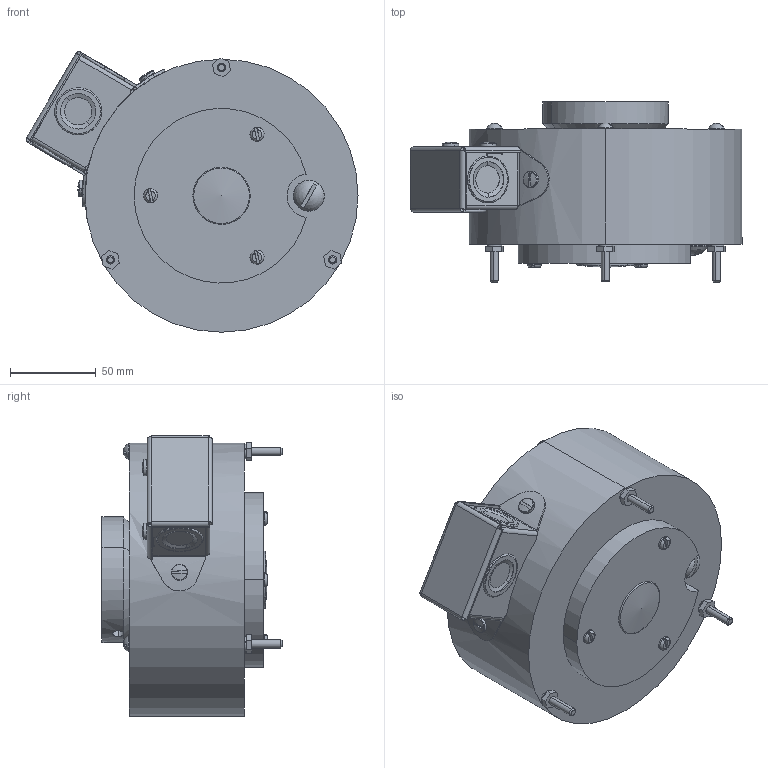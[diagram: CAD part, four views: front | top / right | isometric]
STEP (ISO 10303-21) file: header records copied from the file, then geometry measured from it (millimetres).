
FILE_DESCRIPTION (( 'STEP AP214' ), '1' );
FILE_NAME ('25MB90S_stp.step', '2026-05-12T20:36:38', ( '' ), ( '' ), 'SwSTEP 2.0', 'SolidWorks 2025', '' );
FILE_SCHEMA (( 'AUTOMOTIVE_DESIGN' ));
Length unit declared in the file: inch
Products named in the file (1): 25MB90S_stp
Bounding box: 193.09 x 104.75 x 163.1 mm (x, y, z)
Volume: 720515.7 mm3; surface area: 241013.3 mm2
Topology: 3 solids, 12 shells, 806 faces, 1949 edges, 1228 vertices
Faces by surface type: cylinder 252, plane 242, torus 156, cone 113, bspline 30, sphere 13
Entity records: 27151 total; most frequent: CARTESIAN_POINT 7622, DIRECTION 4467, ORIENTED_EDGE 3864, EDGE_CURVE 1932, AXIS2_PLACEMENT_3D 1890, VERTEX_POINT 1222, CIRCLE 1113, EDGE_LOOP 936
